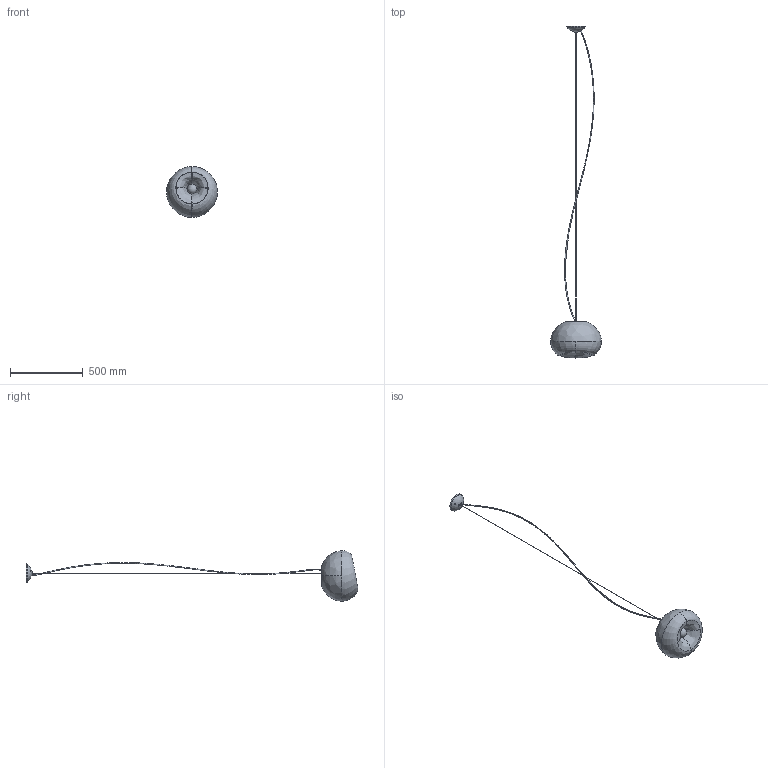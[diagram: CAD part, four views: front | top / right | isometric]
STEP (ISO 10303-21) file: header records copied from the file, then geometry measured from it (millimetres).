
FILE_DESCRIPTION(/* description */ (''),/* implementation_level */ '2;1');
FILE_NAME(/* name */ 'R:\Tecnico\_NEW TECNICO CLANN\PROGETTI DI SERIE\S21-011 LIGHTBODY\Studi\00457MP0AT0_s-bold.stp',/* time_stamp */ '2021-09-06T11:52:55+02:00',/* author */ ('ruggero.dipaola'),/* organization */ (''),/* preprocessor_version */ 'ST-DEVELOPER v18.1',/* originating_system */ 'Autodesk Inventor 2020',/* authorisation */ '');
FILE_SCHEMA (('AUTOMOTIVE_DESIGN { 1 0 10303 214 3 1 1 }'));
Length unit declared in the file: millimetre
Products named in the file (22): 00457MP0LT0; 00457C001; COPRI PTL E26; Portalampada E27 + Cappello M10x1 a scatto; 00457C005; TIGE M10X1 L25mm; GRANO FILETTATO STEAB 5068-8-26 NERO NY66 RV IMP.T; CAVO ACC. INOX 1X49 L 2000MM + FIN D.4X4; 00457C006; 00457C007; NIPPLO M10X1 STEAB 5016-3-7-011 NEUTRO; CAVO ELETTRICO CE; 00457C010; BLOCCACAVO STEAB 5069-7-011; T20X10; RONDELLA DENTELLATA ESTERNA M10 UNI 8842 A; DADO M10x1 H2 ZINCATO; MORSETTO NICHELATO 6X10 + VITI M4X6 F.2X1,7; GRANO STEAB 5408-4-10-2-18 M7X1 L10 NERO CAVA ESAG; RONDELLA IN PA6 NATURALE ØINT10,5 - ØEST 20 - 
SP2; LAMPADINA E27 PER ISTRUZIONI DI MONTAGGIO; 00457C009_render
Assembly tree (23 placements, depth 2):
  00457MP0LT0
    00457C001
    COPRI PTL E26
    Portalampada E27 + Cappello M10x1 a scatto
    00457C005
    TIGE M10X1 L25mm
    GRANO FILETTATO STEAB 5068-8-26 NERO NY66 RV IMP.T
    CAVO ACC. INOX 1X49 L 2000MM + FIN D.4X4
    00457C006
    00457C007
    NIPPLO M10X1 STEAB 5016-3-7-011 NEUTRO
    CAVO ELETTRICO CE
    00457C010
    BLOCCACAVO STEAB 5069-7-011
    T20X10
    RONDELLA DENTELLATA ESTERNA M10 UNI 8842 A
    DADO M10x1 H2 ZINCATO  x2
    MORSETTO NICHELATO 6X10 + VITI M4X6 F.2X1,7
    GRANO STEAB 5408-4-10-2-18 M7X1 L10 NERO CAVA ESAG
    RONDELLA IN PA6 NATURALE ØINT10,5 - ØEST 20 - 
SP2  x2
    LAMPADINA E27 PER ISTRUZIONI DI MONTAGGIO
    00457C009_render
Bounding box: 350 x 2285.41 x 350 mm (x, y, z)
Volume: 3008695.8 mm3; surface area: 857099 mm2
Topology: 26 solids, 26 shells, 464 faces, 1159 edges, 748 vertices
Faces by surface type: plane 204, bspline 103, cylinder 89, torus 41, cone 20, sphere 7
Full cylindrical faces by diameter (mm): 1 x3, 2 x2, 2.2 x4, 3 x2, 3.3 x2, 4 x2, 5 x1, 5.917 x1, 6 x2, 7 x4, 8 x1, 8.917 x1, 9 x3, 10 x7, 10.5 x6, 12 x2, 13 x1, 20 x2, 23 x1, 25 x1, 27 x1, 30 x1, 36 x1, 37 x2, 40 x1, 40.5 x1, 42.1 x1, 50 x1, 66 x1
Entity records: 21990 total; most frequent: CARTESIAN_POINT 10530, ORIENTED_EDGE 2190, DIRECTION 2142, EDGE_CURVE 1095, AXIS2_PLACEMENT_3D 773, VERTEX_POINT 715, LINE 596, VECTOR 596
